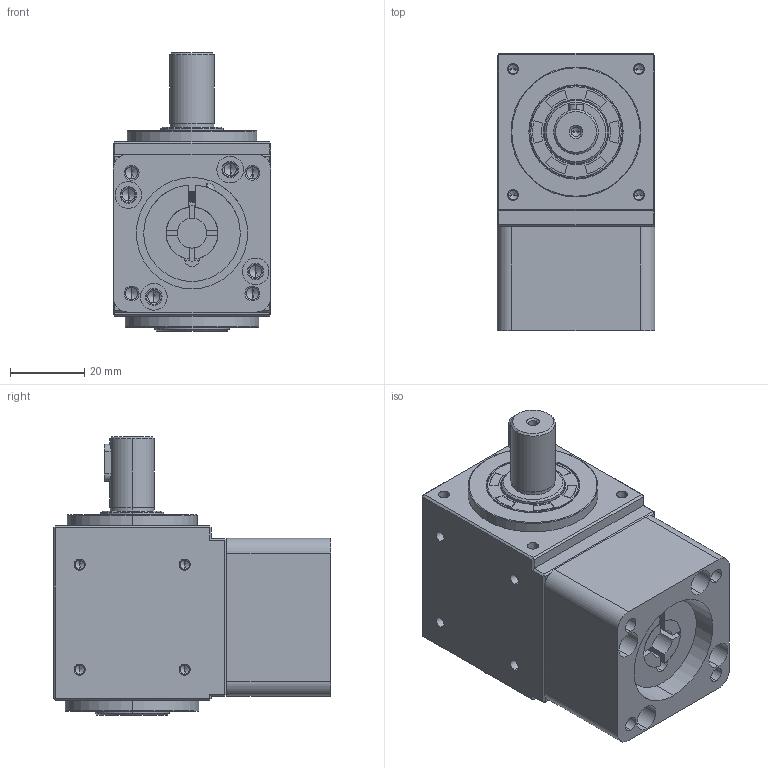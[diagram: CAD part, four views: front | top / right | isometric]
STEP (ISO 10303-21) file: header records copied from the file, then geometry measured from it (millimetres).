
FILE_DESCRIPTION (( 'STEP AP214' ), '1' );
FILE_NAME ('RS42-5(8-30-46-M4).STEP', '2018-12-05T04:07:49', ( '' ), ( '' ), 'SwSTEP 2.0', 'SolidWorks 2016', '' );
FILE_SCHEMA (( 'AUTOMOTIVE_DESIGN' ));
Length unit declared in the file: millimetre
Products named in the file (8): R42; R42-5-(8); SN42-26x14x11-M4; R42-20x32x5; R42-5(30-46-M4); RS42-(12x20-4x10); RS42-5(8-30-46-M4); R42-17x25x4
Assembly tree (7 placements, depth 2):
  RS42-5(8-30-46-M4)
    R42
    R42-5(30-46-M4)
    RS42-(12x20-4x10)
    R42-20x32x5
    R42-17x25x4
    SN42-26x14x11-M4
    R42-5-(8)
Bounding box: 42.5 x 74.75 x 75 mm (x, y, z)
Volume: 104378.9 mm3; surface area: 46265.7 mm2
Topology: 8 solids, 8 shells, 635 faces, 1497 edges, 881 vertices
Faces by surface type: cylinder 302, plane 141, cone 134, torus 36, bspline 22
Entity records: 30477 total; most frequent: CARTESIAN_POINT 15567, DIRECTION 2976, ORIENTED_EDGE 2874, EDGE_CURVE 1437, AXIS2_PLACEMENT_3D 1161, VERTEX_POINT 881, EDGE_LOOP 724, LINE 654
